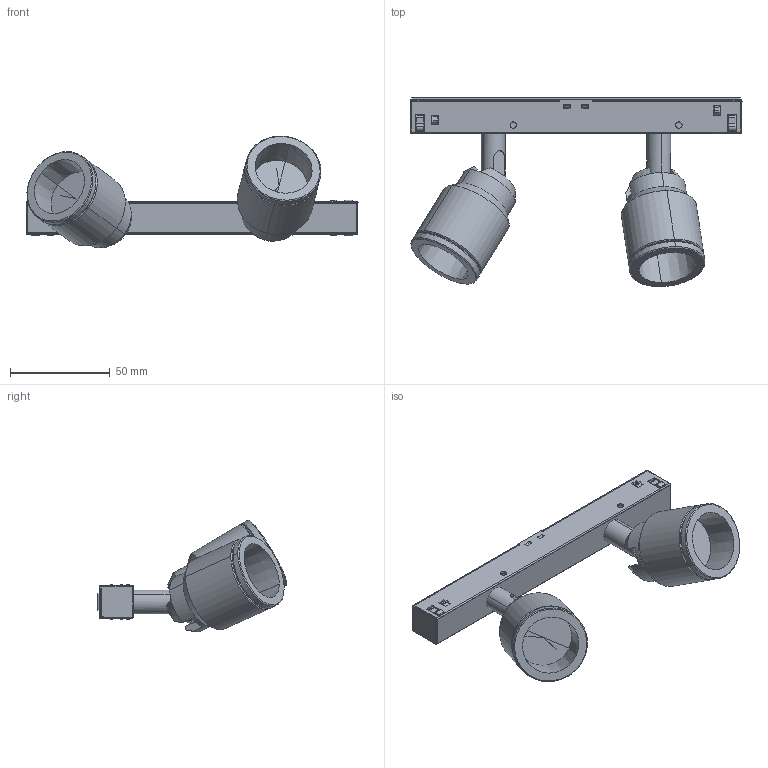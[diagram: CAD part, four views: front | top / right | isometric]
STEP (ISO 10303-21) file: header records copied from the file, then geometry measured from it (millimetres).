
FILE_DESCRIPTION (( 'STEP AP214' ), '1' );
FILE_NAME ('Spot Double Adjustable CAD.STEP', '2019-01-11T04:41:25', ( '' ), ( '' ), 'SwSTEP 2.0', 'SolidWorks 2017', '' );
FILE_SCHEMA (( 'AUTOMOTIVE_DESIGN' ));
Length unit declared in the file: millimetre
Products named in the file (5): pan cross head_am_B18.6.7M - M4 x 0.7 x 5 Type I Cross Recessed PHMS --5N; Shaft; Adaptor 9529-166; Spot Double Adjustable CAD; Part3^Spot Double Adjustable CAD
Assembly tree (7 placements, depth 2):
  Spot Double Adjustable CAD
    Shaft  x2
    Adaptor 9529-166
    Part3^Spot Double Adjustable CAD  x2
    pan cross head_am_B18.6.7M - M4 x 0.7 x 5 Type I Cross Recessed PHMS --5N  x2
Bounding box: 166.41 x 94.94 x 56 mm (x, y, z)
Volume: 95785.9 mm3; surface area: 52579.2 mm2
Topology: 10 solids, 10 shells, 1851 faces, 5049 edges, 3206 vertices
Faces by surface type: plane 1097, cylinder 423, cone 182, bspline 137, torus 8, sphere 4
Entity records: 65185 total; most frequent: CARTESIAN_POINT 20543, ORIENTED_EDGE 9634, DIRECTION 7752, EDGE_CURVE 4817, VECTOR 3168, LINE 3168, VERTEX_POINT 3080, AXIS2_PLACEMENT_3D 2292
